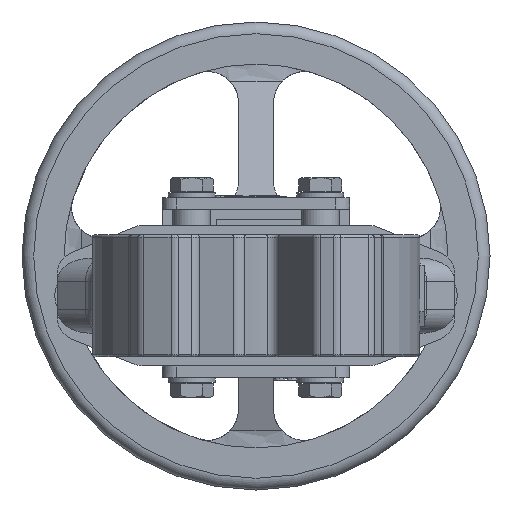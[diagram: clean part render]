
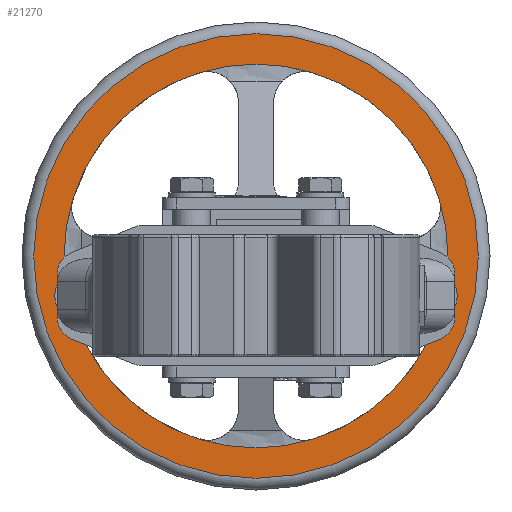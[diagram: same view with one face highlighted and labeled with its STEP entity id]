
A CAD part, front view. The second image highlights one B-rep face of the part: STEP entity #21270.
In plain terms, the highlighted planar face has unit normal (0, -1, 0).
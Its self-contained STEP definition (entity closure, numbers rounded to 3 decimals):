
#17648=CARTESIAN_POINT('',(-78.176,363.,-7.749));
#17649=VERTEX_POINT('',#17648);
#18311=CARTESIAN_POINT('',(24.749,363.,-61.176));
#18312=VERTEX_POINT('',#18311);
#18971=CARTESIAN_POINT('',(78.176,363.,41.749));
#18972=VERTEX_POINT('',#18971);
#19476=CARTESIAN_POINT('',(-78.176,363.,41.749));
#19477=VERTEX_POINT('',#19476);
#19497=CARTESIAN_POINT('',(0.,363.,17.));
#19498=DIRECTION('',(0.0,1.0,0.0));
#19499=DIRECTION('',(1.0,0.0,0.0));
#19500=AXIS2_PLACEMENT_3D('',#19497,#19498,#19499);
#19501=CIRCLE('',#19500,82.0);
#19502=EDGE_CURVE('',#17649,#19477,#19501,.T.);
#19666=CARTESIAN_POINT('',(-24.749,363.,-61.176));
#19667=VERTEX_POINT('',#19666);
#19687=CARTESIAN_POINT('',(0.,363.,17.));
#19688=DIRECTION('',(0.0,1.0,0.0));
#19689=DIRECTION('',(1.0,0.0,0.0));
#19690=AXIS2_PLACEMENT_3D('',#19687,#19688,#19689);
#19691=CIRCLE('',#19690,82.0);
#19692=EDGE_CURVE('',#18312,#19667,#19691,.T.);
#19856=CARTESIAN_POINT('',(78.176,363.,-7.749));
#19857=VERTEX_POINT('',#19856);
#19877=CARTESIAN_POINT('',(0.,363.,17.));
#19878=DIRECTION('',(0.0,1.0,0.0));
#19879=DIRECTION('',(1.0,0.0,0.0));
#19880=AXIS2_PLACEMENT_3D('',#19877,#19878,#19879);
#19881=CIRCLE('',#19880,82.0);
#19882=EDGE_CURVE('',#18972,#19857,#19881,.T.);
#19904=CARTESIAN_POINT('',(0.,363.,17.));
#19905=DIRECTION('',(0.0,1.0,0.0));
#19906=DIRECTION('',(1.0,0.0,0.0));
#19907=AXIS2_PLACEMENT_3D('',#19904,#19905,#19906);
#19908=CIRCLE('',#19907,82.0);
#19909=EDGE_CURVE('',#19667,#17649,#19908,.T.);
#19914=CARTESIAN_POINT('',(0.,363.,17.));
#19915=DIRECTION('',(0.0,1.0,0.0));
#19916=DIRECTION('',(1.0,0.0,0.0));
#19917=AXIS2_PLACEMENT_3D('',#19914,#19915,#19916);
#19918=CIRCLE('',#19917,82.0);
#19919=EDGE_CURVE('',#19857,#18312,#19918,.T.);
#19929=CARTESIAN_POINT('',(24.749,363.,95.176));
#19930=VERTEX_POINT('',#19929);
#19931=CARTESIAN_POINT('',(0.,363.,17.));
#19932=DIRECTION('',(0.0,1.0,0.0));
#19933=DIRECTION('',(1.0,0.0,0.0));
#19934=AXIS2_PLACEMENT_3D('',#19931,#19932,#19933);
#19935=CIRCLE('',#19934,82.0);
#19936=EDGE_CURVE('',#19930,#18972,#19935,.T.);
#19955=CARTESIAN_POINT('',(-24.749,363.,95.176));
#19956=VERTEX_POINT('',#19955);
#19963=CARTESIAN_POINT('',(0.,363.,17.));
#19964=DIRECTION('',(0.0,1.0,0.0));
#19965=DIRECTION('',(1.0,0.0,0.0));
#19966=AXIS2_PLACEMENT_3D('',#19963,#19964,#19965);
#19967=CIRCLE('',#19966,82.0);
#19968=EDGE_CURVE('',#19477,#19956,#19967,.T.);
#21214=CARTESIAN_POINT('',(-95.,363.,17.));
#21215=VERTEX_POINT('',#21214);
#21216=CARTESIAN_POINT('',(0.,363.,17.));
#21217=DIRECTION('',(0.0,1.0,0.0));
#21218=DIRECTION('',(1.0,0.0,0.0));
#21219=AXIS2_PLACEMENT_3D('',#21216,#21217,#21218);
#21220=CIRCLE('',#21219,95.0);
#21221=EDGE_CURVE('',#21215,#21215,#21220,.T.);
#21246=CARTESIAN_POINT('',(0.,363.,17.));
#21247=DIRECTION('',(0.0,1.0,0.0));
#21248=DIRECTION('',(-1.0,0.0,0.0));
#21249=AXIS2_PLACEMENT_3D('',#21246,#21247,#21248);
#21250=PLANE('',#21249);
#21251=ORIENTED_EDGE('',*,*,#21221,.F.);
#21252=EDGE_LOOP('',(#21251));
#21253=FACE_OUTER_BOUND('',#21252,.T.);
#21254=ORIENTED_EDGE('',*,*,#19936,.T.);
#21255=ORIENTED_EDGE('',*,*,#19882,.T.);
#21256=ORIENTED_EDGE('',*,*,#19919,.T.);
#21257=ORIENTED_EDGE('',*,*,#19692,.T.);
#21258=ORIENTED_EDGE('',*,*,#19909,.T.);
#21259=ORIENTED_EDGE('',*,*,#19502,.T.);
#21260=ORIENTED_EDGE('',*,*,#19968,.T.);
#21261=CARTESIAN_POINT('',(0.,363.,17.));
#21262=DIRECTION('',(0.0,1.0,0.0));
#21263=DIRECTION('',(1.0,0.0,0.0));
#21264=AXIS2_PLACEMENT_3D('',#21261,#21262,#21263);
#21265=CIRCLE('',#21264,82.0);
#21266=EDGE_CURVE('',#19956,#19930,#21265,.T.);
#21267=ORIENTED_EDGE('',*,*,#21266,.T.);
#21268=EDGE_LOOP('',(#21254,#21255,#21256,#21257,#21258,#21259,#21260,#21267));
#21269=FACE_BOUND('',#21268,.T.);
#21270=ADVANCED_FACE('',(#21253,#21269),#21250,.F.);
